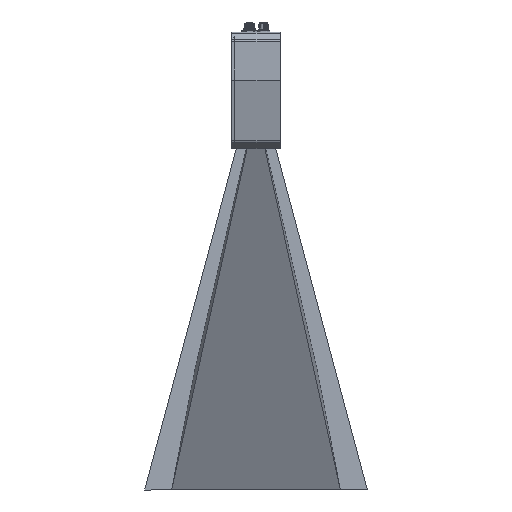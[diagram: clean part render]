
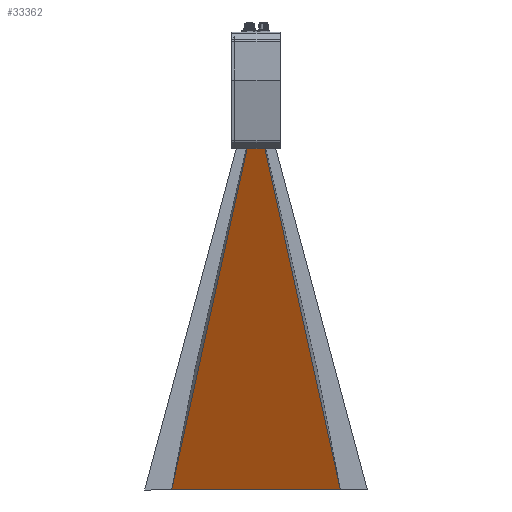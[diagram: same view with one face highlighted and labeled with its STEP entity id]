
A CAD part, left-side view. The second image highlights one B-rep face of the part: STEP entity #33362.
In plain terms, the highlighted planar face has unit normal (-0.898, 0, -0.441) as drawn and (0.067, -0.998, 0) by its records, which use the part's own axes.
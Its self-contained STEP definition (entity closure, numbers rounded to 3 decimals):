
#4842=LINE('',#92860,#7276);
#4845=LINE('',#92866,#7279);
#4849=LINE('',#92887,#7283);
#4850=LINE('',#92889,#7284);
#7276=VECTOR('',#46289,10.);
#7279=VECTOR('',#46294,10.);
#7283=VECTOR('',#46300,10.);
#7284=VECTOR('',#46303,507.179);
#9870=FACE_OUTER_BOUND('',#12077,.T.);
#12077=EDGE_LOOP('',(#30630,#30631,#30632,#30633));
#16761=VERTEX_POINT('',#92857);
#16762=VERTEX_POINT('',#92859);
#16763=VERTEX_POINT('',#92863);
#16764=VERTEX_POINT('',#92865);
#21382=EDGE_CURVE('',#16761,#16762,#4842,.T.);
#21385=EDGE_CURVE('',#16764,#16763,#4845,.T.);
#21389=EDGE_CURVE('',#16764,#16761,#4849,.T.);
#21390=EDGE_CURVE('',#16763,#16762,#4850,.T.);
#30630=ORIENTED_EDGE('',*,*,#21385,.T.);
#30631=ORIENTED_EDGE('',*,*,#21390,.T.);
#30632=ORIENTED_EDGE('',*,*,#21382,.F.);
#30633=ORIENTED_EDGE('',*,*,#21389,.F.);
#31481=PLANE('',#37085);
#33362=ADVANCED_FACE('',(#9870),#31481,.T.);
#37085=AXIS2_PLACEMENT_3D('',#92888,#46301,#46302);
#46289=DIRECTION('',(0.,0.,-1.));
#46294=DIRECTION('',(0.,0.,-1.));
#46300=DIRECTION('',(0.979,0.066,-0.195));
#46301=DIRECTION('center_axis',(0.067,-0.998,0.));
#46302=DIRECTION('ref_axis',(0.,0.,-1.));
#46303=DIRECTION('',(0.979,0.066,0.195));
#92857=CARTESIAN_POINT('',(0.,-4.,6.344));
#92859=CARTESIAN_POINT('',(0.,-4.,-6.344));
#92860=CARTESIAN_POINT('',(0.,-4.,-6.344));
#92863=CARTESIAN_POINT('',(-496.362,-37.5,-105.));
#92865=CARTESIAN_POINT('',(-496.362,-37.5,105.));
#92866=CARTESIAN_POINT('',(-496.362,-37.5,105.));
#92887=CARTESIAN_POINT('',(-496.362,-37.5,105.));
#92888=CARTESIAN_POINT('Origin',(-496.362,-37.5,105.));
#92889=CARTESIAN_POINT('',(-496.362,-37.5,-105.));
